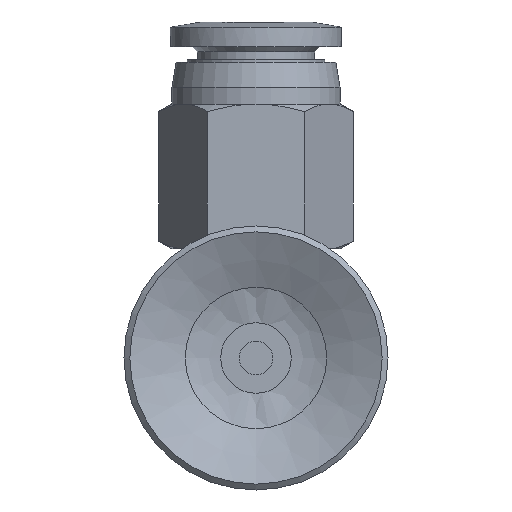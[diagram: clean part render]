
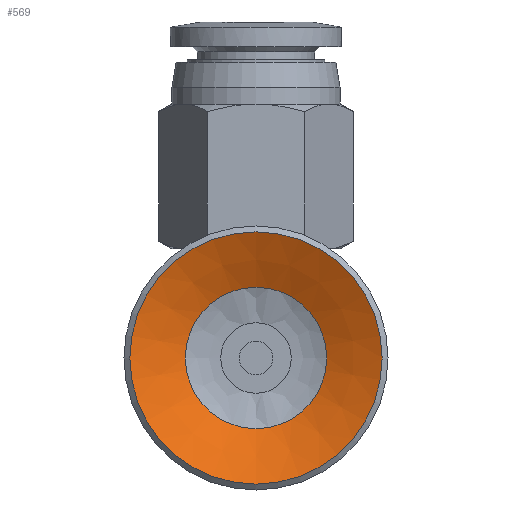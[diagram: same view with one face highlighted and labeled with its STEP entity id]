
A CAD part, front view. The second image highlights one B-rep face of the part: STEP entity #569.
In plain terms, the highlighted conical face has half-angle 65.056 degrees and reference radius 3.2 mm.
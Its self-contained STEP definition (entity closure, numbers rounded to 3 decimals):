
#569=ADVANCED_FACE('',(#903,#904),#905,.F.);
#903=FACE_BOUND('',#1314,.T.);
#904=FACE_OUTER_BOUND('',#1315,.T.);
#905=CONICAL_SURFACE('',#1316,3.2,1.135);
#1314=EDGE_LOOP('',(#2449));
#1315=EDGE_LOOP('',(#2450));
#1316=AXIS2_PLACEMENT_3D('',#2451,#2452,#2453);
#2449=ORIENTED_EDGE('',*,*,#2973,.T.);
#2450=ORIENTED_EDGE('',*,*,#2972,.T.);
#2451=CARTESIAN_POINT('',(0.0,7.896,0.0));
#2452=DIRECTION('',(-0.0,-1.0,0.));
#2453=DIRECTION('',(0.0,0.,-1.0));
#2972=EDGE_CURVE('',#3412,#3412,#3413,.T.);
#2973=EDGE_CURVE('',#3414,#3414,#3415,.T.);
#3412=VERTEX_POINT('',#4338);
#3413=CIRCLE('',#4339,7.5);
#3414=VERTEX_POINT('',#4340);
#3415=CIRCLE('',#4341,4.203);
#4338=CARTESIAN_POINT('',(0.0,5.896,-7.5));
#4339=AXIS2_PLACEMENT_3D('',#5113,#5114,#5115);
#4340=CARTESIAN_POINT('',(0.0,7.43,-4.203));
#4341=AXIS2_PLACEMENT_3D('',#5116,#5117,#5118);
#5113=CARTESIAN_POINT('',(0.0,5.896,0.0));
#5114=DIRECTION('',(0.0,-1.0,0.));
#5115=DIRECTION('',(0.0,0.,-1.0));
#5116=CARTESIAN_POINT('',(0.0,7.43,0.0));
#5117=DIRECTION('',(0.0,1.0,0.));
#5118=DIRECTION('',(0.0,0.,-1.0));
